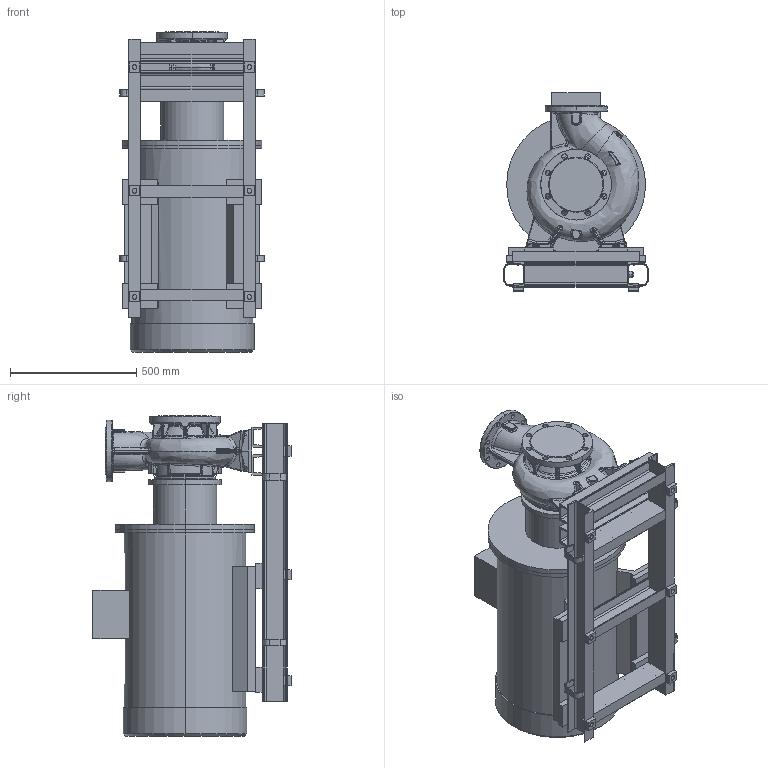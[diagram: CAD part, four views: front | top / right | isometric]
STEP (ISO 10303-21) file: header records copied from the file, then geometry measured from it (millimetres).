
FILE_DESCRIPTION (( 'STEP AP203' ), '1' );
FILE_NAME ('KRM 150-125-200-2-90.STEP', '2026-05-20T09:50:29', ( '' ), ( '' ), 'SwSTEP 2.0', 'SolidWorks 2016', '' );
FILE_SCHEMA (( 'CONFIG_CONTROL_DESIGN' ));
Length unit declared in the file: millimetre
Products named in the file (1): KRM 150-125-200-2-90
Bounding box: 571.21 x 785 x 1269.5 mm (x, y, z)
Volume: 207394590.9 mm3; surface area: 5971969 mm2
Topology: 37 solids, 37 shells, 1573 faces, 3808 edges, 2317 vertices
Faces by surface type: bspline 499, plane 436, cylinder 403, torus 113, cone 71, sphere 51
Entity records: 77220 total; most frequent: CARTESIAN_POINT 43868, ORIENTED_EDGE 7580, DIRECTION 6140, EDGE_CURVE 3790, AXIS2_PLACEMENT_3D 2440, VERTEX_POINT 2317, EDGE_LOOP 1691, ADVANCED_FACE 1573
